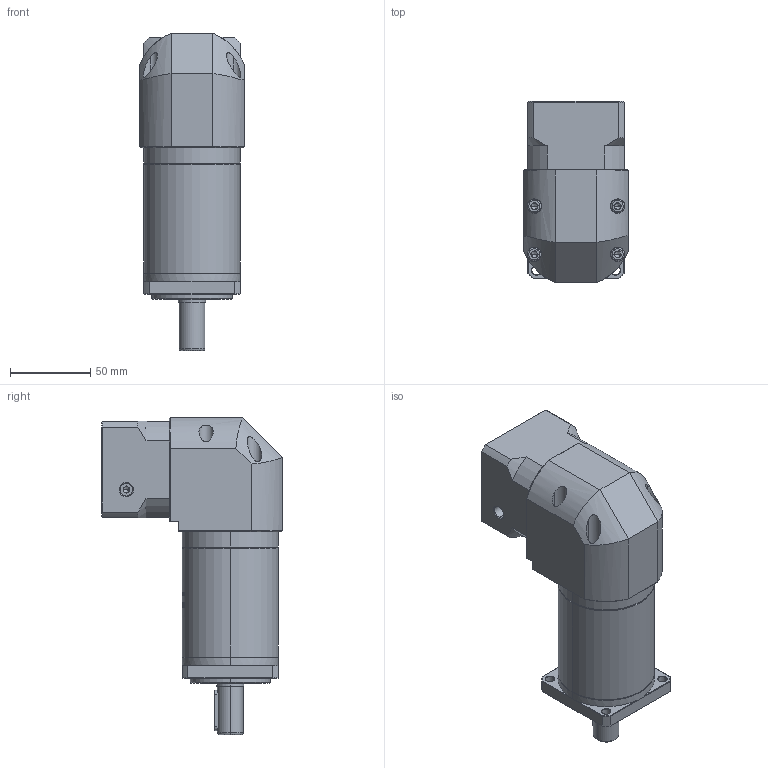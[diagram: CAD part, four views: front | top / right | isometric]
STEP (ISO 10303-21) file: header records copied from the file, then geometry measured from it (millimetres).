
FILE_DESCRIPTION (( 'STEP AP214' ), '1' );
FILE_NAME ('ZFR060-D16-L3-P2-6.35-38.1-47.14x47.14-M4.step', '2023-08-17T03:36:31', ( '' ), ( '' ), 'SwSTEP 2.0', 'SolidWorks 2016', '' );
FILE_SCHEMA (( 'AUTOMOTIVE_DESIGN' ));
Length unit declared in the file: millimetre
Products named in the file (1): ZFR060-D16-L3-P2-6.35-38.1-47.14x47.14-M4
Bounding box: 65 x 112.7 x 197.5 mm (x, y, z)
Volume: 642543.7 mm3; surface area: 86539.1 mm2
Topology: 5 solids, 6 shells, 1918 faces, 5110 edges, 3290 vertices
Faces by surface type: plane 848, cylinder 401, bspline 366, cone 291, torus 12
Entity records: 104509 total; most frequent: CARTESIAN_POINT 39907, ORIENTED_EDGE 10176, DIRECTION 7567, EDGE_CURVE 5088, VERTEX_POINT 3290, LINE 2597, VECTOR 2597, AXIS2_PLACEMENT_3D 2485
